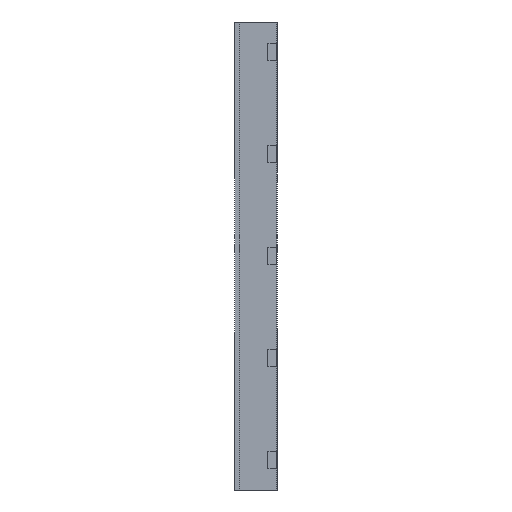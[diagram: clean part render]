
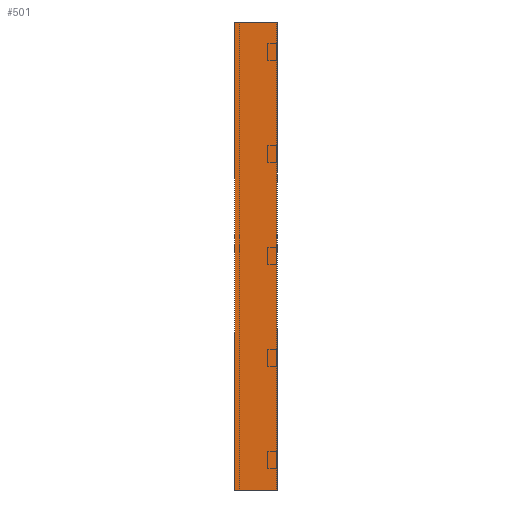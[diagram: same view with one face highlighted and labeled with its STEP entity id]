
A CAD part, left-side view. The second image highlights one B-rep face of the part: STEP entity #501.
In plain terms, the highlighted planar face has unit normal (-1, 0, 0).
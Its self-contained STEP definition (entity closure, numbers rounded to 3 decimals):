
#23 = VERTEX_POINT ( 'NONE', #810 ) ;
#26 = DIRECTION ( 'NONE',  ( 0., -1., 0. ) ) ;
#27 = CARTESIAN_POINT ( 'NONE',  ( 0., 0., -1100. ) ) ;
#41 = VERTEX_POINT ( 'NONE', #1227 ) ;
#45 = VECTOR ( 'NONE', #897, 1000. ) ;
#122 = CARTESIAN_POINT ( 'NONE',  ( 0., 100., -1100. ) ) ;
#205 = FACE_OUTER_BOUND ( 'NONE', #816, .T. ) ;
#208 = LINE ( 'NONE', #1026, #45 ) ;
#243 = CARTESIAN_POINT ( 'NONE',  ( 0., 100., -1100. ) ) ;
#345 = DIRECTION ( 'NONE',  ( 0., 0., 1. ) ) ;
#352 = EDGE_CURVE ( 'NONE', #1056, #1338, #1429, .T. ) ;
#491 = CARTESIAN_POINT ( 'NONE',  ( 0., 0., -1100. ) ) ;
#498 = EDGE_CURVE ( 'NONE', #1338, #23, #1619, .T. ) ;
#501 = ADVANCED_FACE ( 'NONE', ( #205 ), #1659, .T. ) ;
#524 = CARTESIAN_POINT ( 'NONE',  ( 0., 0., -1100. ) ) ;
#610 = DIRECTION ( 'NONE',  ( 0., 0., 1. ) ) ;
#636 = LINE ( 'NONE', #243, #1303 ) ;
#684 = VECTOR ( 'NONE', #26, 1000. ) ;
#810 = CARTESIAN_POINT ( 'NONE',  ( 0., 0., 0. ) ) ;
#816 = EDGE_LOOP ( 'NONE', ( #1518, #1071, #1237, #861 ) ) ;
#861 = ORIENTED_EDGE ( 'NONE', *, *, #498, .T. ) ;
#881 = DIRECTION ( 'NONE',  ( -1., 0., 0. ) ) ;
#897 = DIRECTION ( 'NONE',  ( 0., -1., 0. ) ) ;
#903 = DIRECTION ( 'NONE',  ( 0., 0., 1. ) ) ;
#1000 = EDGE_CURVE ( 'NONE', #41, #23, #208, .T. ) ;
#1026 = CARTESIAN_POINT ( 'NONE',  ( 0., 0., 0. ) ) ;
#1056 = VERTEX_POINT ( 'NONE', #122 ) ;
#1071 = ORIENTED_EDGE ( 'NONE', *, *, #1540, .F. ) ;
#1141 = VECTOR ( 'NONE', #610, 1000. ) ;
#1227 = CARTESIAN_POINT ( 'NONE',  ( 0., 100., 0. ) ) ;
#1237 = ORIENTED_EDGE ( 'NONE', *, *, #352, .T. ) ;
#1262 = CARTESIAN_POINT ( 'NONE',  ( 0., 0., -1100. ) ) ;
#1303 = VECTOR ( 'NONE', #903, 1000. ) ;
#1337 = AXIS2_PLACEMENT_3D ( 'NONE', #1262, #881, #345 ) ;
#1338 = VERTEX_POINT ( 'NONE', #27 ) ;
#1429 = LINE ( 'NONE', #524, #684 ) ;
#1518 = ORIENTED_EDGE ( 'NONE', *, *, #1000, .F. ) ;
#1540 = EDGE_CURVE ( 'NONE', #1056, #41, #636, .T. ) ;
#1619 = LINE ( 'NONE', #491, #1141 ) ;
#1659 = PLANE ( 'NONE',  #1337 ) ;
